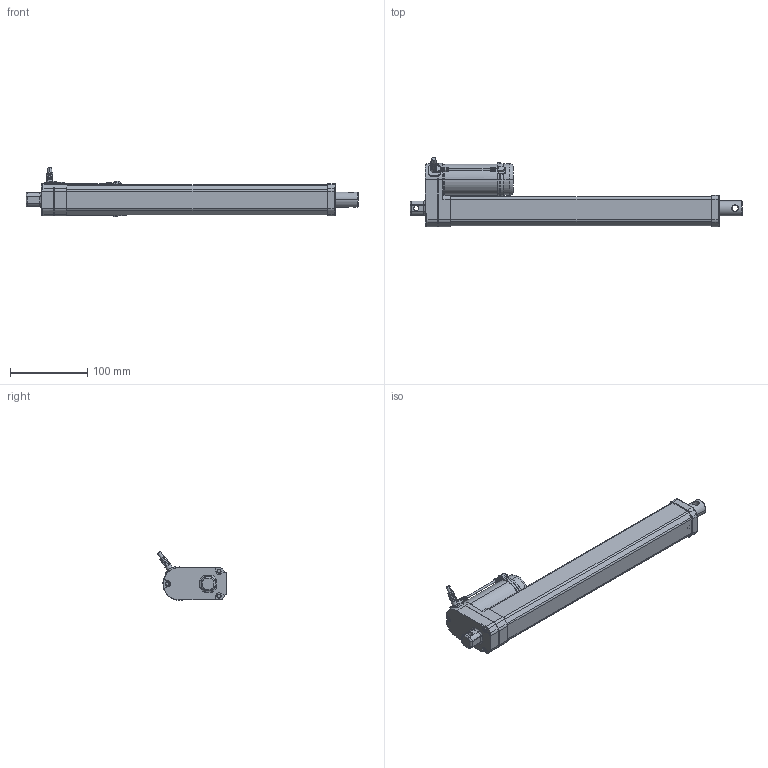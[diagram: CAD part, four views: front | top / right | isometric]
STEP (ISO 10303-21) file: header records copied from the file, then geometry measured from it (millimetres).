
FILE_DESCRIPTION((''),' ');
FILE_NAME('dszy11_300_hs2.stp',' ',('r'),('r'),' ','ACIS 14.0',' ');
FILE_SCHEMA(('automotive_design'));
Length unit declared in the file: inch
Products named in the file (3): DSZY11-HS2-300
Bounding box: 430 x 90.06 x 63.59 mm (x, y, z)
Volume: 319393.9 mm3; surface area: 170491.2 mm2
Topology: 3 solids, 3 shells, 466 faces, 1239 edges, 804 vertices
Faces by surface type: plane 213, cylinder 175, torus 41, cone 23, bspline 10, sphere 4
Entity records: 18855 total; most frequent: CARTESIAN_POINT 3102, DIRECTION 2630, ORIENTED_EDGE 2466, EDGE_CURVE 1233, AXIS2_PLACEMENT_3D 1011, VERTEX_POINT 804, LINE 608, VECTOR 608
